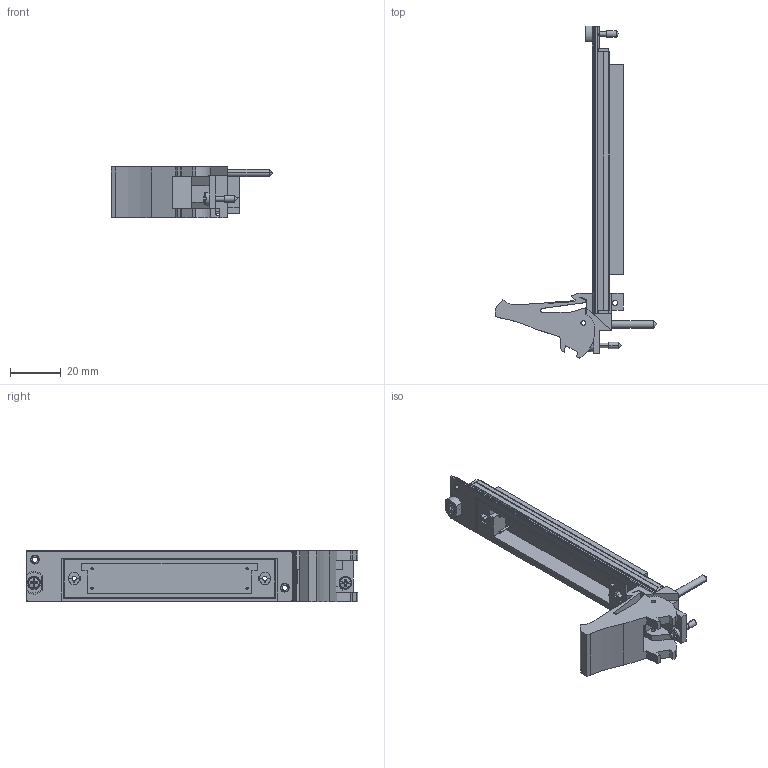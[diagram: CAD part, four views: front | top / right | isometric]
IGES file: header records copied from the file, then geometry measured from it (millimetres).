
Start section:  PTC IGES file: cu_pxi-2529.igs
Global section: file name: cu_pxi-2529.igs; native system: Pro/ENGINEER by Parametric Technology Corporation; preprocessor: 2006080; author: jjorden; organization: Unknown; date: 090901.130011; units: inch
Bounding box: 63.53 x 130.5 x 20.31 mm (x, y, z)
Surface area: 19735.6 mm2 (no closed solid volume)
Topology: 0 solids, 0 shells, 430 faces, 2288 edges, 2284 vertices
Faces by surface type: bspline 291, revolution 139
